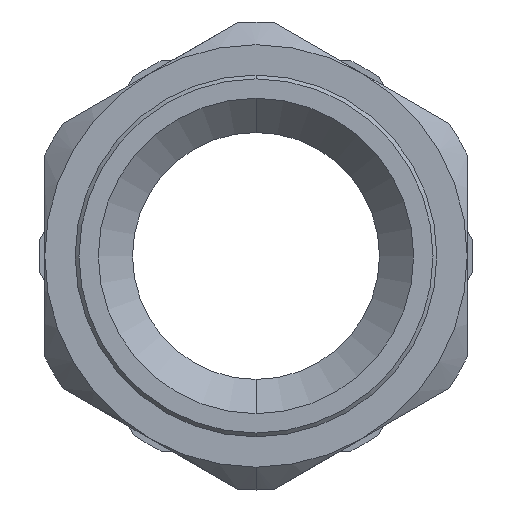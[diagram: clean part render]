
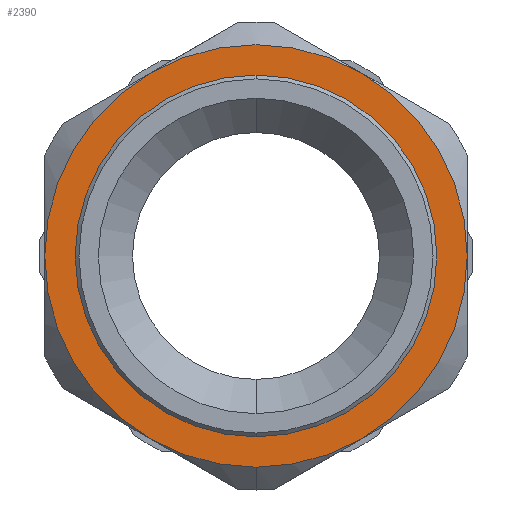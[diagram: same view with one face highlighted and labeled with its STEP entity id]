
A CAD part, front view. The second image highlights one B-rep face of the part: STEP entity #2390.
In plain terms, the highlighted planar face has unit normal (0, -1, 0).
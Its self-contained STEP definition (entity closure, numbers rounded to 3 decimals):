
#26 = CIRCLE ( 'NONE', #946, 27.8 ) ;
#28 = CIRCLE ( 'NONE', #949, 27.8 ) ;
#30 = CIRCLE ( 'NONE', #951, 27.8 ) ;
#31 = CIRCLE ( 'NONE', #952, 27.8 ) ;
#46 = CIRCLE ( 'NONE', #996, 27.8 ) ;
#51 = CIRCLE ( 'NONE', #1006, 23.8 ) ;
#52 = CIRCLE ( 'NONE', #1026, 27.8 ) ;
#66 = CIRCLE ( 'NONE', #272, 27.8 ) ;
#86 = CIRCLE ( 'NONE', #148, 23.8 ) ;
#148 = AXIS2_PLACEMENT_3D ( 'NONE', #410, #417, #418 ) ;
#272 = AXIS2_PLACEMENT_3D ( 'NONE', #892, #899, #900 ) ;
#289 = ORIENTED_EDGE ( 'NONE', *, *, #2462, .T. ) ;
#290 = ORIENTED_EDGE ( 'NONE', *, *, #2463, .T. ) ;
#291 = ORIENTED_EDGE ( 'NONE', *, *, #2437, .T. ) ;
#292 = ORIENTED_EDGE ( 'NONE', *, *, #2465, .T. ) ;
#293 = ORIENTED_EDGE ( 'NONE', *, *, #2422, .T. ) ;
#295 = ORIENTED_EDGE ( 'NONE', *, *, #2361, .T. ) ;
#303 = ORIENTED_EDGE ( 'NONE', *, *, #2235, .F. ) ;
#306 = ORIENTED_EDGE ( 'NONE', *, *, #2430, .F. ) ;
#310 = ORIENTED_EDGE ( 'NONE', *, *, #2469, .T. ) ;
#410 = CARTESIAN_POINT ( 'NONE',  ( 0., 1., 0. ) ) ;
#417 = DIRECTION ( 'NONE',  ( 0., -1., 0. ) ) ;
#418 = DIRECTION ( 'NONE',  ( 0., 0., -1. ) ) ;
#892 = CARTESIAN_POINT ( 'NONE',  ( 0., 1., 0. ) ) ;
#899 = DIRECTION ( 'NONE',  ( 0., -1., 0. ) ) ;
#900 = DIRECTION ( 'NONE',  ( 0., 0., -1. ) ) ;
#946 = AXIS2_PLACEMENT_3D ( 'NONE', #2136, #2140, #2141 ) ;
#949 = AXIS2_PLACEMENT_3D ( 'NONE', #2121, #2122, #2123 ) ;
#951 = AXIS2_PLACEMENT_3D ( 'NONE', #2115, #2116, #2117 ) ;
#952 = AXIS2_PLACEMENT_3D ( 'NONE', #2109, #2113, #2114 ) ;
#996 = AXIS2_PLACEMENT_3D ( 'NONE', #2034, #2035, #2036 ) ;
#1006 = AXIS2_PLACEMENT_3D ( 'NONE', #2013, #2014, #2015 ) ;
#1026 = AXIS2_PLACEMENT_3D ( 'NONE', #1984, #1985, #1986 ) ;
#1092 = AXIS2_PLACEMENT_3D ( 'NONE', #1879, #1880, #1881 ) ;
#1094 = FACE_OUTER_BOUND ( 'NONE', #1297, .T. ) ;
#1101 = FACE_BOUND ( 'NONE', #1298, .T. ) ;
#1297 = EDGE_LOOP ( 'NONE', ( #289, #291, #290, #292, #293, #295, #310 ) ) ;
#1298 = EDGE_LOOP ( 'NONE', ( #303, #306 ) ) ;
#1378 = VERTEX_POINT ( 'NONE', #1679 ) ;
#1389 = VERTEX_POINT ( 'NONE', #1690 ) ;
#1399 = VERTEX_POINT ( 'NONE', #1700 ) ;
#1411 = VERTEX_POINT ( 'NONE', #1712 ) ;
#1553 = VERTEX_POINT ( 'NONE', #1717 ) ;
#1557 = VERTEX_POINT ( 'NONE', #1721 ) ;
#1558 = VERTEX_POINT ( 'NONE', #1722 ) ;
#1559 = VERTEX_POINT ( 'NONE', #1723 ) ;
#1579 = VERTEX_POINT ( 'NONE', #1743 ) ;
#1679 = CARTESIAN_POINT ( 'NONE',  ( 0., 1., 23.8 ) ) ;
#1690 = CARTESIAN_POINT ( 'NONE',  ( 13.9, 1., -24.076 ) ) ;
#1700 = CARTESIAN_POINT ( 'NONE',  ( 0., 1., -23.8 ) ) ;
#1712 = CARTESIAN_POINT ( 'NONE',  ( 0., 1., -27.8 ) ) ;
#1717 = CARTESIAN_POINT ( 'NONE',  ( -13.9, 1., -24.076 ) ) ;
#1721 = CARTESIAN_POINT ( 'NONE',  ( 13.9, 1., 24.076 ) ) ;
#1722 = CARTESIAN_POINT ( 'NONE',  ( -27.8, 1., 0. ) ) ;
#1723 = CARTESIAN_POINT ( 'NONE',  ( 27.8, 1., 0. ) ) ;
#1743 = CARTESIAN_POINT ( 'NONE',  ( -13.9, 1., 24.076 ) ) ;
#1878 = PLANE ( 'NONE',  #1092 ) ;
#1879 = CARTESIAN_POINT ( 'NONE',  ( -30.8, 1., 0. ) ) ;
#1880 = DIRECTION ( 'NONE',  ( 0., 1., 0. ) ) ;
#1881 = DIRECTION ( 'NONE',  ( 0., 0., 1. ) ) ;
#1984 = CARTESIAN_POINT ( 'NONE',  ( 0., 1., 0. ) ) ;
#1985 = DIRECTION ( 'NONE',  ( 0., -1., 0. ) ) ;
#1986 = DIRECTION ( 'NONE',  ( 0., 0., -1. ) ) ;
#2013 = CARTESIAN_POINT ( 'NONE',  ( 0., 1., 0. ) ) ;
#2014 = DIRECTION ( 'NONE',  ( 0., -1., 0. ) ) ;
#2015 = DIRECTION ( 'NONE',  ( 0., 0., -1. ) ) ;
#2034 = CARTESIAN_POINT ( 'NONE',  ( 0., 1., 0. ) ) ;
#2035 = DIRECTION ( 'NONE',  ( 0., -1., 0. ) ) ;
#2036 = DIRECTION ( 'NONE',  ( 0., 0., -1. ) ) ;
#2109 = CARTESIAN_POINT ( 'NONE',  ( 0., 1., 0. ) ) ;
#2113 = DIRECTION ( 'NONE',  ( 0., -1., 0. ) ) ;
#2114 = DIRECTION ( 'NONE',  ( 0., 0., -1. ) ) ;
#2115 = CARTESIAN_POINT ( 'NONE',  ( 0., 1., 0. ) ) ;
#2116 = DIRECTION ( 'NONE',  ( 0., -1., 0. ) ) ;
#2117 = DIRECTION ( 'NONE',  ( 0., 0., -1. ) ) ;
#2121 = CARTESIAN_POINT ( 'NONE',  ( 0., 1., 0. ) ) ;
#2122 = DIRECTION ( 'NONE',  ( 0., -1., 0. ) ) ;
#2123 = DIRECTION ( 'NONE',  ( 0., 0., -1. ) ) ;
#2136 = CARTESIAN_POINT ( 'NONE',  ( 0., 1., 0. ) ) ;
#2140 = DIRECTION ( 'NONE',  ( 0., -1., 0. ) ) ;
#2141 = DIRECTION ( 'NONE',  ( 0., 0., -1. ) ) ;
#2235 = EDGE_CURVE ( 'NONE', #1399, #1378, #86, .T. ) ;
#2361 = EDGE_CURVE ( 'NONE', #1411, #1389, #66, .T. ) ;
#2390 = ADVANCED_FACE ( 'NONE', ( #1101, #1094 ), #1878, .F. ) ;
#2422 = EDGE_CURVE ( 'NONE', #1553, #1411, #52, .T. ) ;
#2430 = EDGE_CURVE ( 'NONE', #1378, #1399, #51, .T. ) ;
#2437 = EDGE_CURVE ( 'NONE', #1557, #1579, #46, .T. ) ;
#2462 = EDGE_CURVE ( 'NONE', #1559, #1557, #31, .T. ) ;
#2463 = EDGE_CURVE ( 'NONE', #1579, #1558, #30, .T. ) ;
#2465 = EDGE_CURVE ( 'NONE', #1558, #1553, #28, .T. ) ;
#2469 = EDGE_CURVE ( 'NONE', #1389, #1559, #26, .T. ) ;
